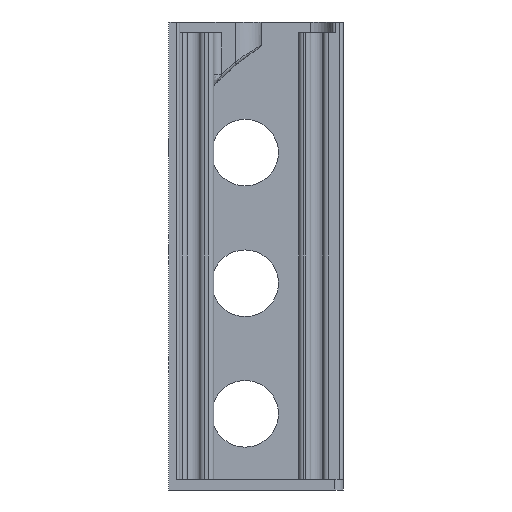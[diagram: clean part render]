
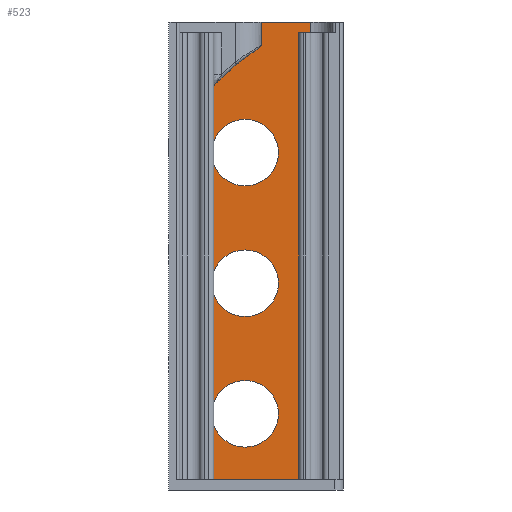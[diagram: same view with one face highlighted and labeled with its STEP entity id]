
A CAD part, left-side view. The second image highlights one B-rep face of the part: STEP entity #523.
In plain terms, the highlighted planar face has unit normal (-1, 0, 0).
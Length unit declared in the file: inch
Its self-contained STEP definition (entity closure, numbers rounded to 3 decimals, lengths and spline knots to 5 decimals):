
#45 = AXIS2_PLACEMENT_3D ( 'NONE', #4133, #5445, #3463 ) ;
#283 = AXIS2_PLACEMENT_3D ( 'NONE', #8373, #5130, #5771 ) ;
#382 = CIRCLE ( 'NONE', #2612, 0.3825 ) ;
#439 = CARTESIAN_POINT ( 'NONE',  ( 1., 0.125, 3.875 ) ) ;
#523 = ADVANCED_FACE ( 'NONE', ( #6362, #3063, #1351, #2754 ), #4416, .F. ) ;
#679 = CIRCLE ( 'NONE', #5227, 0.3825 ) ;
#763 = VERTEX_POINT ( 'NONE', #4198 ) ;
#885 = CARTESIAN_POINT ( 'NONE',  ( 1., -0.625, -2.75284 ) ) ;
#1351 = FACE_BOUND ( 'NONE', #7117, .T. ) ;
#1417 = LINE ( 'NONE', #7811, #4878 ) ;
#1569 = CARTESIAN_POINT ( 'NONE',  ( 1., 0.125, 4.2575 ) ) ;
#1584 = EDGE_CURVE ( 'NONE', #1716, #5966, #3654, .T. ) ;
#1604 = EDGE_LOOP ( 'NONE', ( #4066, #4278, #6258, #2813 ) ) ;
#1684 = CARTESIAN_POINT ( 'NONE',  ( 1., 0.125, 0.4925 ) ) ;
#1716 = VERTEX_POINT ( 'NONE', #4149 ) ;
#1938 = DIRECTION ( 'NONE',  ( 0., 1., 0. ) ) ;
#2048 = AXIS2_PLACEMENT_3D ( 'NONE', #4511, #5093, #2542 ) ;
#2174 = VECTOR ( 'NONE', #4444, 39.37008 ) ;
#2358 = EDGE_CURVE ( 'NONE', #4101, #4898, #1417, .T. ) ;
#2419 = CARTESIAN_POINT ( 'NONE',  ( 1., 0.625, 0.125 ) ) ;
#2469 = CARTESIAN_POINT ( 'NONE',  ( 1., 0.625, -2.75284 ) ) ;
#2471 = DIRECTION ( 'NONE',  ( 0., 1., 0. ) ) ;
#2542 = DIRECTION ( 'NONE',  ( 0., 1., 0. ) ) ;
#2612 = AXIS2_PLACEMENT_3D ( 'NONE', #439, #7634, #1938 ) ;
#2622 = CARTESIAN_POINT ( 'NONE',  ( 1., -0.625, 5.375 ) ) ;
#2754 = FACE_OUTER_BOUND ( 'NONE', #1604, .T. ) ;
#2790 = DIRECTION ( 'NONE',  ( 0., 0., 1. ) ) ;
#2810 = DIRECTION ( 'NONE',  ( 0., 0., 1. ) ) ;
#2813 = ORIENTED_EDGE ( 'NONE', *, *, #6898, .F. ) ;
#2818 = CARTESIAN_POINT ( 'NONE',  ( 1., 0.625, -2.75284 ) ) ;
#3063 = FACE_BOUND ( 'NONE', #5146, .T. ) ;
#3176 = DIRECTION ( 'NONE',  ( 0., 1., 0. ) ) ;
#3417 = EDGE_CURVE ( 'NONE', #8149, #5743, #382, .T. ) ;
#3463 = DIRECTION ( 'NONE',  ( 0., 1., 0. ) ) ;
#3654 = CIRCLE ( 'NONE', #283, 0.3825 ) ;
#3779 = CARTESIAN_POINT ( 'NONE',  ( 1., -0.625, 0.125 ) ) ;
#3827 = EDGE_CURVE ( 'NONE', #8090, #4101, #7414, .T. ) ;
#4006 = AXIS2_PLACEMENT_3D ( 'NONE', #2469, #5016, #5797 ) ;
#4064 = AXIS2_PLACEMENT_3D ( 'NONE', #5602, #4880, #4999 ) ;
#4066 = ORIENTED_EDGE ( 'NONE', *, *, #3827, .T. ) ;
#4101 = VERTEX_POINT ( 'NONE', #2622 ) ;
#4118 = CARTESIAN_POINT ( 'NONE',  ( 1., 0.125, 1.9925 ) ) ;
#4133 = CARTESIAN_POINT ( 'NONE',  ( 1., 0.125, 0.875 ) ) ;
#4149 = CARTESIAN_POINT ( 'NONE',  ( 1., 0.125, 1.2575 ) ) ;
#4198 = CARTESIAN_POINT ( 'NONE',  ( 1., 0.125, 2.7575 ) ) ;
#4278 = ORIENTED_EDGE ( 'NONE', *, *, #2358, .T. ) ;
#4416 = PLANE ( 'NONE',  #4006 ) ;
#4444 = DIRECTION ( 'NONE',  ( 0., 1., 0. ) ) ;
#4477 = ORIENTED_EDGE ( 'NONE', *, *, #3417, .T. ) ;
#4511 = CARTESIAN_POINT ( 'NONE',  ( 1., 0.125, 2.375 ) ) ;
#4540 = ORIENTED_EDGE ( 'NONE', *, *, #7532, .T. ) ;
#4878 = VECTOR ( 'NONE', #2471, 39.37008 ) ;
#4880 = DIRECTION ( 'NONE',  ( 1., 0., 0. ) ) ;
#4898 = VERTEX_POINT ( 'NONE', #7830 ) ;
#4999 = DIRECTION ( 'NONE',  ( 0., 1., 0. ) ) ;
#5016 = DIRECTION ( 'NONE',  ( 1., 0., 0. ) ) ;
#5093 = DIRECTION ( 'NONE',  ( 1., 0., 0. ) ) ;
#5130 = DIRECTION ( 'NONE',  ( 1., 0., 0. ) ) ;
#5146 = EDGE_LOOP ( 'NONE', ( #8216, #8154 ) ) ;
#5227 = AXIS2_PLACEMENT_3D ( 'NONE', #5748, #7112, #3176 ) ;
#5445 = DIRECTION ( 'NONE',  ( 1., 0., 0. ) ) ;
#5553 = CIRCLE ( 'NONE', #4064, 0.3825 ) ;
#5602 = CARTESIAN_POINT ( 'NONE',  ( 1., 0.125, 2.375 ) ) ;
#5685 = VECTOR ( 'NONE', #2810, 39.37008 ) ;
#5743 = VERTEX_POINT ( 'NONE', #1569 ) ;
#5748 = CARTESIAN_POINT ( 'NONE',  ( 1., 0.125, 3.875 ) ) ;
#5771 = DIRECTION ( 'NONE',  ( 0., 1., 0. ) ) ;
#5797 = DIRECTION ( 'NONE',  ( 0., 1., 0. ) ) ;
#5902 = EDGE_CURVE ( 'NONE', #7356, #763, #5553, .T. ) ;
#5966 = VERTEX_POINT ( 'NONE', #1684 ) ;
#6066 = VECTOR ( 'NONE', #2790, 39.37008 ) ;
#6258 = ORIENTED_EDGE ( 'NONE', *, *, #7355, .F. ) ;
#6260 = CIRCLE ( 'NONE', #2048, 0.3825 ) ;
#6362 = FACE_BOUND ( 'NONE', #7556, .T. ) ;
#6550 = VERTEX_POINT ( 'NONE', #8459 ) ;
#6582 = CARTESIAN_POINT ( 'NONE',  ( 1., 0.125, 3.4925 ) ) ;
#6603 = ORIENTED_EDGE ( 'NONE', *, *, #6769, .T. ) ;
#6769 = EDGE_CURVE ( 'NONE', #5966, #1716, #7572, .T. ) ;
#6898 = EDGE_CURVE ( 'NONE', #8090, #6550, #8091, .T. ) ;
#7050 = EDGE_CURVE ( 'NONE', #763, #7356, #6260, .T. ) ;
#7112 = DIRECTION ( 'NONE',  ( 1., 0., 0. ) ) ;
#7117 = EDGE_LOOP ( 'NONE', ( #4477, #4540 ) ) ;
#7166 = LINE ( 'NONE', #2818, #6066 ) ;
#7355 = EDGE_CURVE ( 'NONE', #6550, #4898, #7166, .T. ) ;
#7356 = VERTEX_POINT ( 'NONE', #4118 ) ;
#7414 = LINE ( 'NONE', #885, #5685 ) ;
#7523 = ORIENTED_EDGE ( 'NONE', *, *, #1584, .T. ) ;
#7532 = EDGE_CURVE ( 'NONE', #5743, #8149, #679, .T. ) ;
#7556 = EDGE_LOOP ( 'NONE', ( #6603, #7523 ) ) ;
#7572 = CIRCLE ( 'NONE', #45, 0.3825 ) ;
#7634 = DIRECTION ( 'NONE',  ( 1., 0., 0. ) ) ;
#7811 = CARTESIAN_POINT ( 'NONE',  ( 1., 0.625, 5.375 ) ) ;
#7830 = CARTESIAN_POINT ( 'NONE',  ( 1., 0.625, 5.375 ) ) ;
#8090 = VERTEX_POINT ( 'NONE', #3779 ) ;
#8091 = LINE ( 'NONE', #2419, #2174 ) ;
#8149 = VERTEX_POINT ( 'NONE', #6582 ) ;
#8154 = ORIENTED_EDGE ( 'NONE', *, *, #7050, .T. ) ;
#8216 = ORIENTED_EDGE ( 'NONE', *, *, #5902, .T. ) ;
#8373 = CARTESIAN_POINT ( 'NONE',  ( 1., 0.125, 0.875 ) ) ;
#8459 = CARTESIAN_POINT ( 'NONE',  ( 1., 0.625, 0.125 ) ) ;
